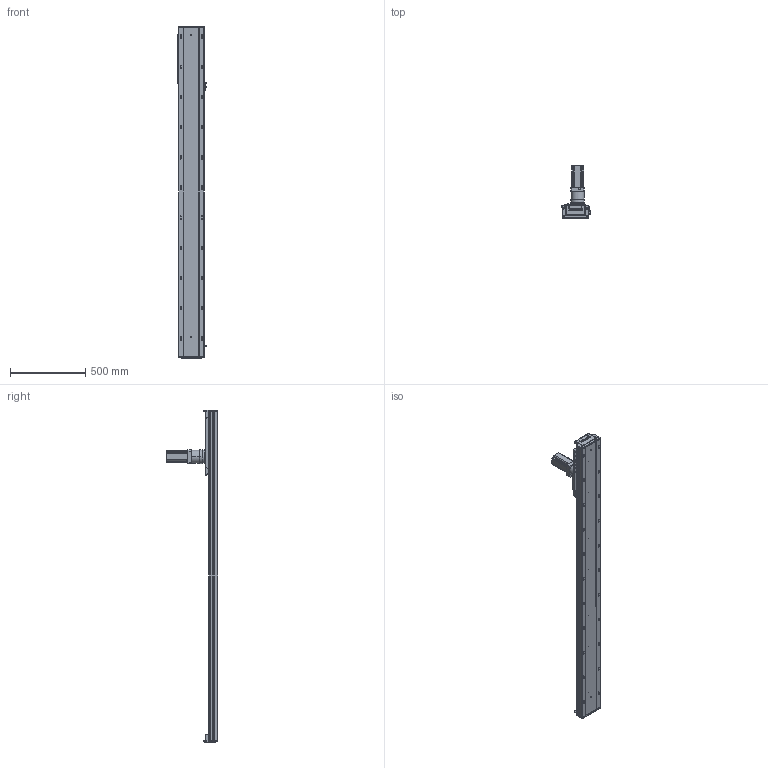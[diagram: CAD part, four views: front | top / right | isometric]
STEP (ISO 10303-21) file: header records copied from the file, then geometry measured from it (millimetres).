
FILE_DESCRIPTION (( 'STEP AP203' ), '1' );
FILE_NAME ('RY170-C-1000-UK.SLDASM_1700.step', '2021-03-03T00:46:51', ( '盈信电脑' ), ( '东莞市道滘镇水果街19号' ), 'SwSTEP 2.0', 'SolidWorks 2012', '' );
FILE_SCHEMA (( 'CONFIG_CONTROL_DESIGN' ));
Length unit declared in the file: millimetre
Products named in the file (13): RY170-C-1000-UK.SLDASM_1700; RY170-喘沭賑輸; 左旋斜齿齿轮_M2_22齿_内孔20; TF080等撰; RY170-喘沭滅袉蝶輸; 怢湛750W萇儂ㄗ80遺ㄘ; 覜茼ん672; RY170綴裔啣ㄗ蜊秶ㄘ; RY170-喘謫萇儂覃誹啣; RY170外置感应片(200共用）; 絳寢賑輸EGH20CA; RY170-1000-喘沭耀郪絳寢EGH20CA_1700; RY170-1000齿条模组型材底座_1700
Assembly tree (22 placements, depth 2):
  RY170-C-1000-UK.SLDASM_1700
    RY170-1000齿条模组型材底座_1700
    絳寢賑輸EGH20CA  x6
    RY170-1000-喘沭耀郪絳寢EGH20CA_1700  x2
    RY170綴裔啣ㄗ蜊秶ㄘ  x2
    覜茼ん672  x3
    RY170外置感应片(200共用）
    RY170-喘謫萇儂覃誹啣
    怢湛750W萇儂ㄗ80遺ㄘ
    RY170-喘沭滅袉蝶輸  x2
    TF080等撰
    左旋斜齿齿轮_M2_22齿_内孔20
    RY170-喘沭賑輸
Bounding box: 188.7 x 343.5 x 2200 mm (x, y, z)
Volume: 12334950 mm3; surface area: 3042716.3 mm2
Topology: 24 solids, 24 shells, 4209 faces, 11710 edges, 7516 vertices
Faces by surface type: plane 2067, cylinder 1784, cone 304, bspline 50, torus 4
Entity records: 92960 total; most frequent: CARTESIAN_POINT 21374, ORIENTED_EDGE 14862, DIRECTION 14496, EDGE_CURVE 7431, AXIS2_PLACEMENT_3D 5323, VERTEX_POINT 4836, LINE 3850, VECTOR 3850
